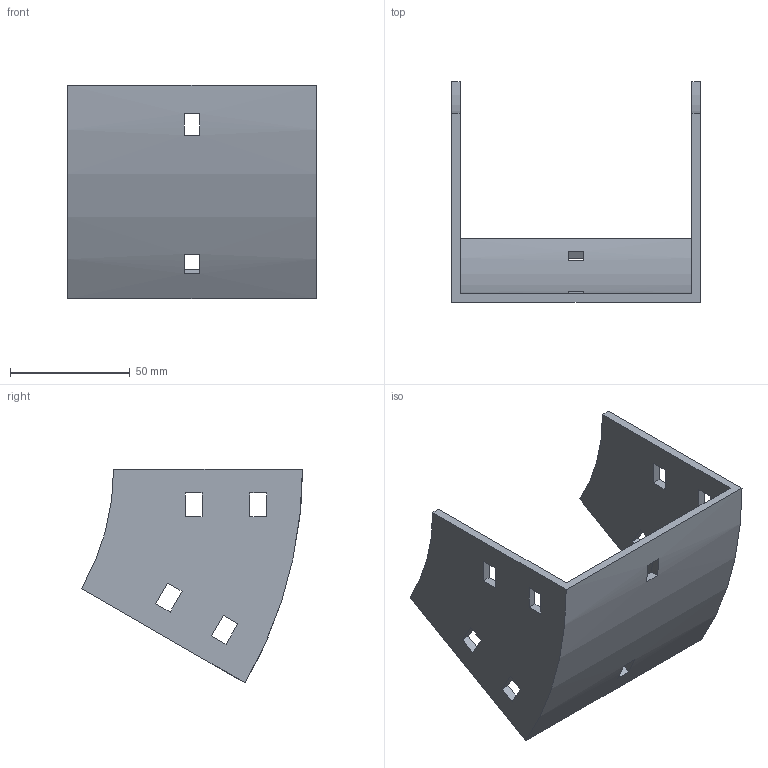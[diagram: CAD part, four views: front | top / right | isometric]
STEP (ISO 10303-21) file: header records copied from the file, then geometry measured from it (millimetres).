
FILE_DESCRIPTION (( 'STEP AP214' ), '1' );
FILE_NAME ('32B1C100.step', '2025-02-21T09:44:37', ( '' ), ( '' ), 'SwSTEP 2.0', 'SolidWorks 2023', '' );
FILE_SCHEMA (( 'AUTOMOTIVE_DESIGN' ));
Length unit declared in the file: millimetre
Products named in the file (1): 32B1C100
Bounding box: 104 x 92.4 x 89.5 mm (x, y, z)
Volume: 69529.2 mm3; surface area: 43058.9 mm2
Topology: 1 solids, 1 shells, 50 faces, 144 edges, 96 vertices
Faces by surface type: plane 46, cylinder 4
Entity records: 1687 total; most frequent: CARTESIAN_POINT 291, ORIENTED_EDGE 288, DIRECTION 262, EDGE_CURVE 144, VECTOR 128, LINE 128, VERTEX_POINT 96, EDGE_LOOP 70
